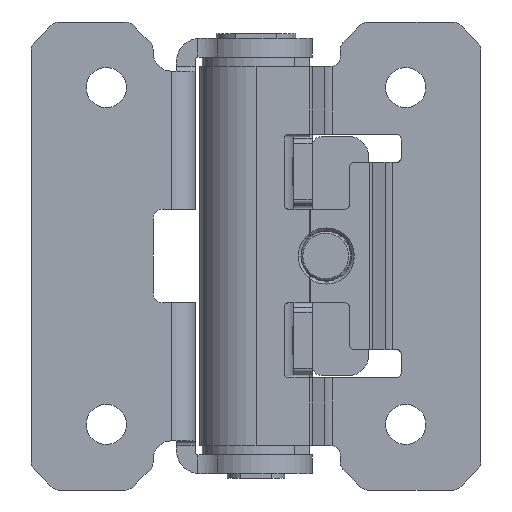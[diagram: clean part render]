
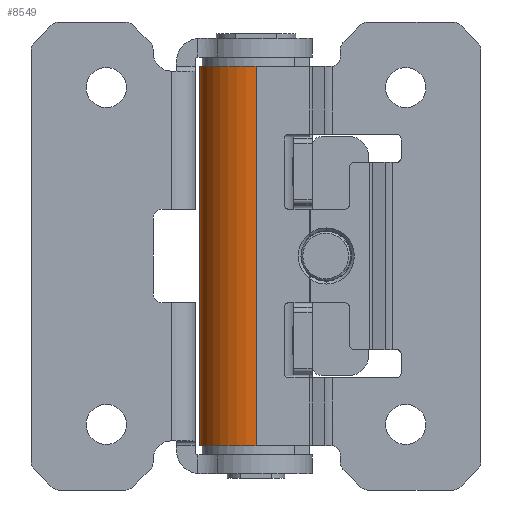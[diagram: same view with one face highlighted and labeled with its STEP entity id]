
A CAD part, front view. The second image highlights one B-rep face of the part: STEP entity #8549.
In plain terms, the highlighted cylindrical face has radius 6 mm (diameter 12 mm), a partial arc.
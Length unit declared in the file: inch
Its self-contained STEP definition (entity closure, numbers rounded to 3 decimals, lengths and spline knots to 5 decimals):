
#272 = CARTESIAN_POINT ( 'NONE',  ( 0., 0., 0.79724 ) ) ;
#369 = CARTESIAN_POINT ( 'NONE',  ( -0.23622, 0.23622, -0.79724 ) ) ;
#599 = DIRECTION ( 'NONE',  ( -1., 0., 0. ) ) ;
#618 = FACE_OUTER_BOUND ( 'NONE', #2261, .T. ) ;
#854 = LINE ( 'NONE', #9148, #14206 ) ;
#1416 = AXIS2_PLACEMENT_3D ( 'NONE', #16846, #15458, #4119 ) ;
#2092 = CARTESIAN_POINT ( 'NONE',  ( 0., 0.23622, -0.79724 ) ) ;
#2261 = EDGE_LOOP ( 'NONE', ( #15728, #4600, #17183, #3255 ) ) ;
#2301 = DIRECTION ( 'NONE',  ( 0., 0., -1. ) ) ;
#2965 = EDGE_CURVE ( 'NONE', #6912, #12268, #854, .T. ) ;
#3086 = EDGE_CURVE ( 'NONE', #5720, #6912, #13937, .T. ) ;
#3151 = CARTESIAN_POINT ( 'NONE',  ( 0., 0., -0.79724 ) ) ;
#3255 = ORIENTED_EDGE ( 'NONE', *, *, #2965, .F. ) ;
#3941 = DIRECTION ( 'NONE',  ( 0., 0., -1. ) ) ;
#4119 = DIRECTION ( 'NONE',  ( -1., 0., 0. ) ) ;
#4526 = DIRECTION ( 'NONE',  ( 0., 0., 1. ) ) ;
#4600 = ORIENTED_EDGE ( 'NONE', *, *, #17367, .T. ) ;
#5246 = CARTESIAN_POINT ( 'NONE',  ( -0.23622, 0.23622, 0.98425 ) ) ;
#5525 = AXIS2_PLACEMENT_3D ( 'NONE', #2092, #4526, #599 ) ;
#5720 = VERTEX_POINT ( 'NONE', #16942 ) ;
#6302 = CYLINDRICAL_SURFACE ( 'NONE', #7634, 0.23622 ) ;
#6912 = VERTEX_POINT ( 'NONE', #272 ) ;
#7634 = AXIS2_PLACEMENT_3D ( 'NONE', #16528, #2301, #12460 ) ;
#8549 = ADVANCED_FACE ( 'NONE', ( #618 ), #6302, .T. ) ;
#9038 = VERTEX_POINT ( 'NONE', #369 ) ;
#9148 = CARTESIAN_POINT ( 'NONE',  ( 0., 0., 0.98425 ) ) ;
#10323 = CIRCLE ( 'NONE', #5525, 0.23622 ) ;
#12268 = VERTEX_POINT ( 'NONE', #3151 ) ;
#12460 = DIRECTION ( 'NONE',  ( -1., 0., 0. ) ) ;
#13937 = CIRCLE ( 'NONE', #1416, 0.23622 ) ;
#14206 = VECTOR ( 'NONE', #16108, 39.37008 ) ;
#15282 = LINE ( 'NONE', #5246, #17167 ) ;
#15458 = DIRECTION ( 'NONE',  ( 0., 0., 1. ) ) ;
#15728 = ORIENTED_EDGE ( 'NONE', *, *, #3086, .F. ) ;
#16083 = EDGE_CURVE ( 'NONE', #9038, #12268, #10323, .T. ) ;
#16108 = DIRECTION ( 'NONE',  ( 0., 0., -1. ) ) ;
#16528 = CARTESIAN_POINT ( 'NONE',  ( 0., 0.23622, 0.98425 ) ) ;
#16846 = CARTESIAN_POINT ( 'NONE',  ( 0., 0.23622, 0.79724 ) ) ;
#16942 = CARTESIAN_POINT ( 'NONE',  ( -0.23622, 0.23622, 0.79724 ) ) ;
#17167 = VECTOR ( 'NONE', #3941, 39.37008 ) ;
#17183 = ORIENTED_EDGE ( 'NONE', *, *, #16083, .T. ) ;
#17367 = EDGE_CURVE ( 'NONE', #5720, #9038, #15282, .T. ) ;
